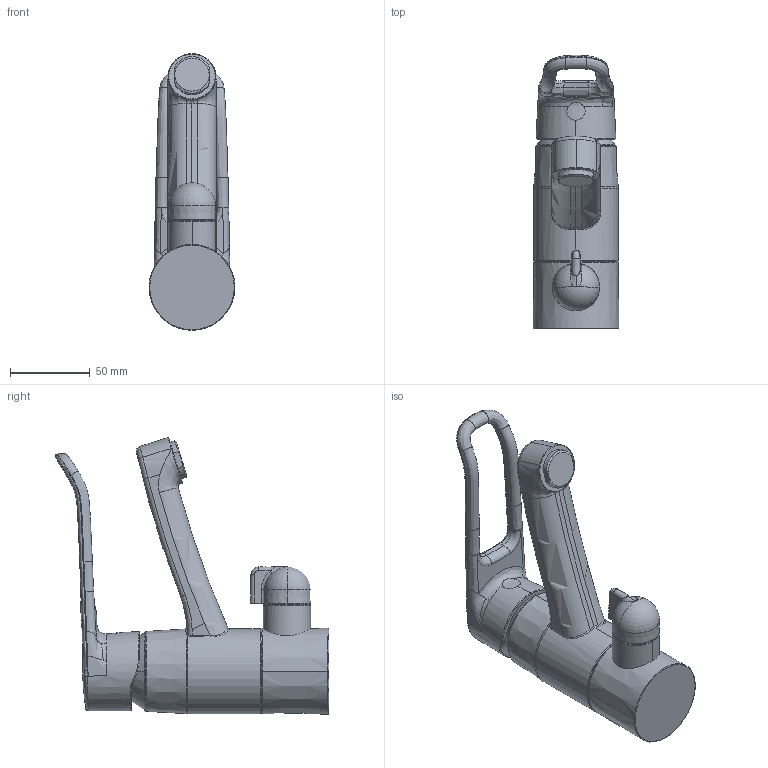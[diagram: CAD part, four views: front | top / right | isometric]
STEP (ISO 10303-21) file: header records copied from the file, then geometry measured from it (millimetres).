
FILE_DESCRIPTION (( 'STEP AP203' ), '1' );
FILE_NAME ('5613(2018).STEP', '2018-07-18T10:05:37', ( '' ), ( '' ), 'SwSTEP 2.0', 'SolidWorks 2016', '' );
FILE_SCHEMA (( 'CONFIG_CONTROL_DESIGN' ));
Length unit declared in the file: millimetre
Products named in the file (1): 5613(2018)
Bounding box: 53.72 x 170.86 x 173 mm (x, y, z)
Volume: 436620.3 mm3; surface area: 52129.8 mm2
Topology: 1 solids, 1 shells, 181 faces, 450 edges, 271 vertices
Faces by surface type: bspline 113, torus 31, cylinder 16, cone 11, plane 10
Entity records: 26133 total; most frequent: CARTESIAN_POINT 22661, ORIENTED_EDGE 890, EDGE_CURVE 445, DIRECTION 442, VERTEX_POINT 271, B_SPLINE_CURVE_WITH_KNOTS 270, AXIS2_PLACEMENT_3D 207, EDGE_LOOP 188
